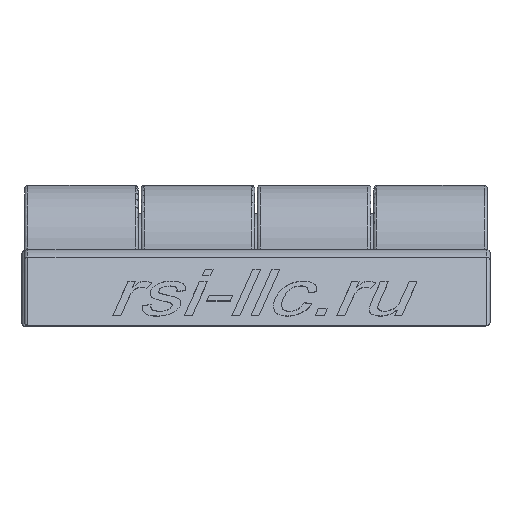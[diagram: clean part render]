
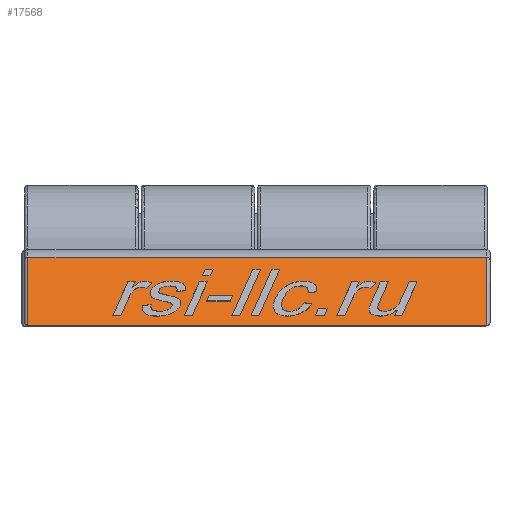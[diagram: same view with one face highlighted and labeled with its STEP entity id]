
A CAD part, top view. The second image highlights one B-rep face of the part: STEP entity #17568.
In plain terms, the highlighted planar face has unit normal (0, 0.651, 0.759) as drawn and (0, 0.651, -0.759) by its records, which use the part's own axes.
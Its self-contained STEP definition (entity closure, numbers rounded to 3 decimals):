
#53 = AXIS2_PLACEMENT_3D ( 'NONE', #9884, #15550, #2932 ) ;
#237 = DIRECTION ( 'NONE',  ( 1., 0., 0. ) ) ;
#376 = CARTESIAN_POINT ( 'NONE',  ( 21.2, -6.5, -36.5 ) ) ;
#913 = ORIENTED_EDGE ( 'NONE', *, *, #14804, .T. ) ;
#2043 = VERTEX_POINT ( 'NONE', #376 ) ;
#2932 = DIRECTION ( 'NONE',  ( 0., -0.759, -0.651 ) ) ;
#3015 = DIRECTION ( 'NONE',  ( 0., -0.759, -0.651 ) ) ;
#3058 = VERTEX_POINT ( 'NONE', #3605 ) ;
#3227 = EDGE_CURVE ( 'NONE', #3058, #2043, #9970, .T. ) ;
#3289 = EDGE_LOOP ( 'NONE', ( #16596, #13152, #7897, #913 ) ) ;
#3605 = CARTESIAN_POINT ( 'NONE',  ( 21.2, -0.198, -31.099 ) ) ;
#3771 = DIRECTION ( 'NONE',  ( -1., 0., 0. ) ) ;
#4329 = FACE_OUTER_BOUND ( 'NONE', #3289, .T. ) ;
#4517 = VECTOR ( 'NONE', #3015, 1000. ) ;
#4998 = DIRECTION ( 'NONE',  ( 0., 0.759, 0.651 ) ) ;
#6970 = PLANE ( 'NONE',  #53 ) ;
#7204 = LINE ( 'NONE', #12833, #16767 ) ;
#7727 = VECTOR ( 'NONE', #3771, 1000. ) ;
#7897 = ORIENTED_EDGE ( 'NONE', *, *, #3227, .T. ) ;
#8203 = EDGE_CURVE ( 'NONE', #16554, #3058, #7204, .T. ) ;
#9024 = CARTESIAN_POINT ( 'NONE',  ( -21.2, -6.5, -36.5 ) ) ;
#9070 = VECTOR ( 'NONE', #4998, 1000. ) ;
#9884 = CARTESIAN_POINT ( 'NONE',  ( 21.5, 0.5, -30.5 ) ) ;
#9970 = LINE ( 'NONE', #15635, #4517 ) ;
#10008 = EDGE_CURVE ( 'NONE', #11001, #16554, #11982, .T. ) ;
#10732 = LINE ( 'NONE', #16387, #7727 ) ;
#11001 = VERTEX_POINT ( 'NONE', #9024 ) ;
#11320 = CARTESIAN_POINT ( 'NONE',  ( -21.2, -0.198, -31.099 ) ) ;
#11982 = LINE ( 'NONE', #17639, #9070 ) ;
#12833 = CARTESIAN_POINT ( 'NONE',  ( 21.5, -0.198, -31.099 ) ) ;
#13152 = ORIENTED_EDGE ( 'NONE', *, *, #8203, .T. ) ;
#14804 = EDGE_CURVE ( 'NONE', #2043, #11001, #10732, .T. ) ;
#15550 = DIRECTION ( 'NONE',  ( 0., -0.651, 0.759 ) ) ;
#15635 = CARTESIAN_POINT ( 'NONE',  ( 21.2, -6.5, -36.5 ) ) ;
#16387 = CARTESIAN_POINT ( 'NONE',  ( 21.5, -6.5, -36.5 ) ) ;
#16554 = VERTEX_POINT ( 'NONE', #11320 ) ;
#16596 = ORIENTED_EDGE ( 'NONE', *, *, #10008, .T. ) ;
#16767 = VECTOR ( 'NONE', #237, 1000. ) ;
#17568 = ADVANCED_FACE ( 'NONE', ( #4329 ), #6970, .F. ) ;
#17639 = CARTESIAN_POINT ( 'NONE',  ( -21.2, 0.5, -30.5 ) ) ;
